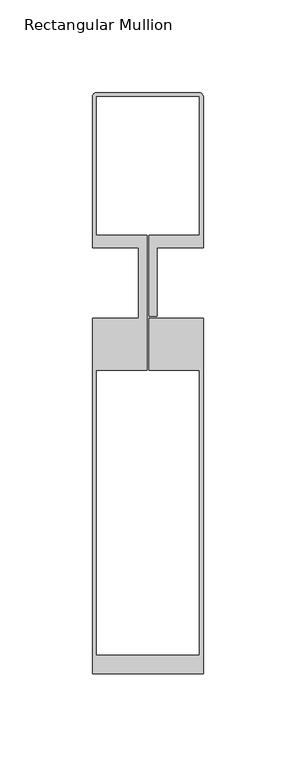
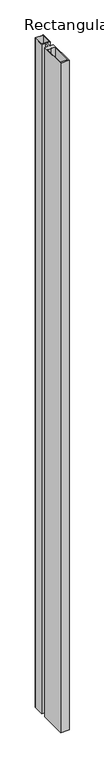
"""IFC4 building model written with IfcOpenShell, lengths in millimetres: member geometry, Rectangular Mullion : FMO60-200-S...FM60-81."""

from ifc_helpers import new_model, si_unit, point, frame, frame_2d, origin, place, context, project, spatial, polyline, circle_curve, trimmed, segment, composite_curve, outline, extrude, source, transform, mapped, element, save


def rectangular_mullion_0c3e5d3c(model_context):
    return source(origin(), model_context, "Body", "SweptSolid", [
        extrude(outline(composite_curve([segment(polyline([(-27.6, 100.8477977), (27.6, 100.8477977)]), True, "CONTINUOUS"), segment(trimmed(circle_curve(frame_2d((27.6, 98.4477977)), 2.4), [point((27.6, 100.8477977))], [point((30.0, 98.4477977))], False, "CARTESIAN"), True, "CONTINUOUS"), segment(polyline([(30.0, 98.4477977), (30.0, 17.0), (5.0, 17.0), (5.0, -20.0072936), (0.5, -20.0072936), (0.5, 23.8476589), (28.0000412, 23.8476589), (28.0000412, 98.8477977), (-28.0000412, 98.8477977), (-28.0000412, 23.8476589), (-0.5, 23.8476589), (-0.5, -49.0034642), (-28.0, -49.0034642), (-28.0, -203.009342), (28.0, -203.009342), (28.0, -49.0034642), (0.5, -49.0034642), (0.5, -21.0072936), (30.0, -21.0072936), (30.0, -213.009342), (-30.0, -213.009342), (-30.0, -21.0072936), (-5.0, -21.0072936), (-5.0, 17.0), (-30.0, 17.0), (-30.0, 98.4477977)]), True, "CONTINUOUS"), segment(trimmed(circle_curve(frame_2d((-27.6, 98.4477977)), 2.4), [point((-30.0, 98.4477977))], [point((-27.6, 100.8477977))], False, "CARTESIAN"), True, "CONTINUOUS")], self_intersect=False)), frame((0.0, 0.0, -5000.0), z_axis=(0.0, 0.0, 1.0), x_axis=(1.0, 0.0, 0.0)), (0.0, 0.0, 1.0), 5000.0),
    ])


if __name__ == "__main__":
    model = new_model("IFC4")
    model_context = context("Model", 3, world=origin())
    ifc_project = project(units=[si_unit("LENGTHUNIT", "METRE", prefix="MILLI")], contexts=[model_context])
    site = spatial("IfcSite", under=ifc_project)
    building = spatial("IfcBuilding", under=site)
    placement = place(None, origin())
    rectangular_mullion_shape = rectangular_mullion_0c3e5d3c(model_context)
    element("IfcMember", 1, ObjectType="Rectangular Mullion : FMO60-200-S...FM60-81", at=placement, inside=building, context=model_context, shape_type="MappedRepresentation", body=[
        mapped(rectangular_mullion_shape, transform((0.0, 0.0, 0.0), x_axis=(1.0, 0.0, 0.0), y_axis=(0.0, 1.0, 0.0), z_axis=(0.0, 0.0, 1.0))),
    ])
    save(model, "model.ifc")
